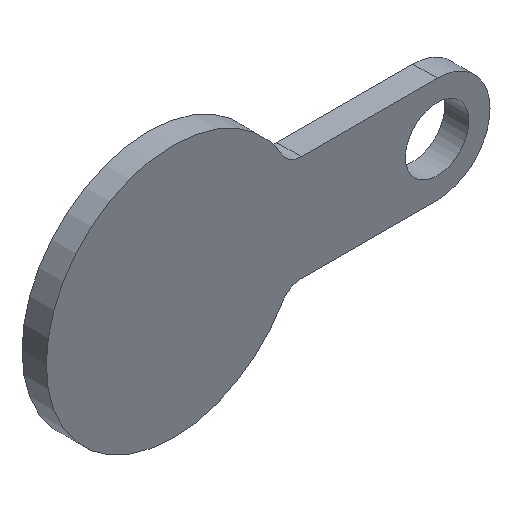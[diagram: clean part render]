
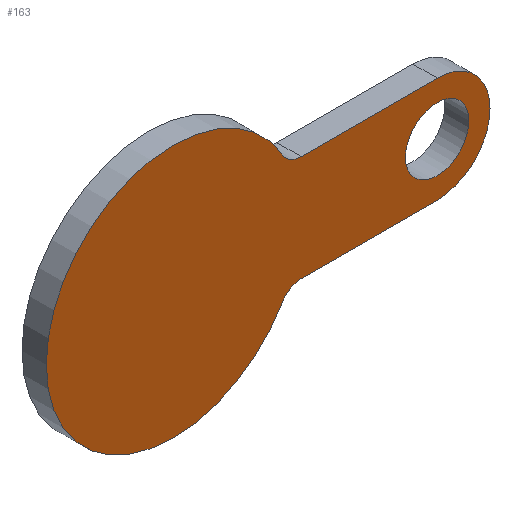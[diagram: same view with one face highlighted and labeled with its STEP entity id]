
A CAD part, isometric view. The second image highlights one B-rep face of the part: STEP entity #163.
In plain terms, the highlighted planar face has unit normal (0, -1, 0).
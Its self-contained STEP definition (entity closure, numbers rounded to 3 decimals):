
#16=FACE_BOUND('',#40,.T.);
#20=PLANE('',#196);
#29=FACE_OUTER_BOUND('',#39,.T.);
#39=EDGE_LOOP('',(#143,#144,#145,#146,#147,#148));
#40=EDGE_LOOP('',(#149));
#43=LINE('',#260,#54);
#51=LINE('',#290,#62);
#54=VECTOR('',#209,10.);
#62=VECTOR('',#243,10.);
#63=CIRCLE('',#179,2.);
#65=CIRCLE('',#183,2.);
#68=CIRCLE('',#187,12.);
#70=CIRCLE('',#190,3.);
#71=CIRCLE('',#192,5.);
#73=VERTEX_POINT('',#250);
#74=VERTEX_POINT('',#251);
#77=VERTEX_POINT('',#259);
#79=VERTEX_POINT('',#265);
#80=VERTEX_POINT('',#266);
#84=VERTEX_POINT('',#279);
#85=VERTEX_POINT('',#283);
#87=EDGE_CURVE('',#73,#74,#63,.T.);
#91=EDGE_CURVE('',#74,#77,#43,.T.);
#94=EDGE_CURVE('',#79,#80,#65,.T.);
#99=EDGE_CURVE('',#80,#73,#68,.T.);
#102=EDGE_CURVE('',#84,#84,#70,.T.);
#103=EDGE_CURVE('',#77,#85,#71,.T.);
#107=EDGE_CURVE('',#85,#79,#51,.T.);
#143=ORIENTED_EDGE('',*,*,#107,.F.);
#144=ORIENTED_EDGE('',*,*,#103,.F.);
#145=ORIENTED_EDGE('',*,*,#91,.F.);
#146=ORIENTED_EDGE('',*,*,#87,.F.);
#147=ORIENTED_EDGE('',*,*,#99,.F.);
#148=ORIENTED_EDGE('',*,*,#94,.F.);
#149=ORIENTED_EDGE('',*,*,#102,.F.);
#163=ADVANCED_FACE('',(#29,#16),#20,.F.);
#179=AXIS2_PLACEMENT_3D('',#252,#201,#202);
#183=AXIS2_PLACEMENT_3D('',#267,#214,#215);
#187=AXIS2_PLACEMENT_3D('',#275,#224,#225);
#190=AXIS2_PLACEMENT_3D('',#281,#231,#232);
#192=AXIS2_PLACEMENT_3D('',#284,#235,#236);
#196=AXIS2_PLACEMENT_3D('',#292,#246,#247);
#201=DIRECTION('center_axis',(0.,-1.,0.));
#202=DIRECTION('ref_axis',(-0.5,0.,-0.866));
#209=DIRECTION('',(1.,0.,0.));
#214=DIRECTION('center_axis',(0.,-1.,0.));
#215=DIRECTION('ref_axis',(-0.5,0.,0.866));
#224=DIRECTION('center_axis',(0.,1.,0.));
#225=DIRECTION('ref_axis',(1.,0.,0.));
#231=DIRECTION('center_axis',(0.,-1.,0.));
#232=DIRECTION('ref_axis',(1.,0.,0.));
#235=DIRECTION('center_axis',(0.,1.,0.));
#236=DIRECTION('ref_axis',(0.,0.,1.));
#243=DIRECTION('',(-1.,0.,0.));
#246=DIRECTION('center_axis',(0.,1.,0.));
#247=DIRECTION('ref_axis',(1.,0.,0.));
#250=CARTESIAN_POINT('',(10.392,0.,6.));
#251=CARTESIAN_POINT('',(12.124,0.,5.));
#252=CARTESIAN_POINT('Origin',(12.124,0.,7.));
#259=CARTESIAN_POINT('',(25.,0.,5.));
#260=CARTESIAN_POINT('',(0.,0.,5.));
#265=CARTESIAN_POINT('',(12.124,0.,-5.));
#266=CARTESIAN_POINT('',(10.392,0.,-6.));
#267=CARTESIAN_POINT('Origin',(12.124,0.,-7.));
#275=CARTESIAN_POINT('Origin',(0.,0.,0.));
#279=CARTESIAN_POINT('',(22.,0.,0.));
#281=CARTESIAN_POINT('Origin',(25.,0.,0.));
#283=CARTESIAN_POINT('',(25.,0.,-5.));
#284=CARTESIAN_POINT('Origin',(25.,0.,0.));
#290=CARTESIAN_POINT('',(25.,0.,-5.));
#292=CARTESIAN_POINT('Origin',(9.,0.,0.));
